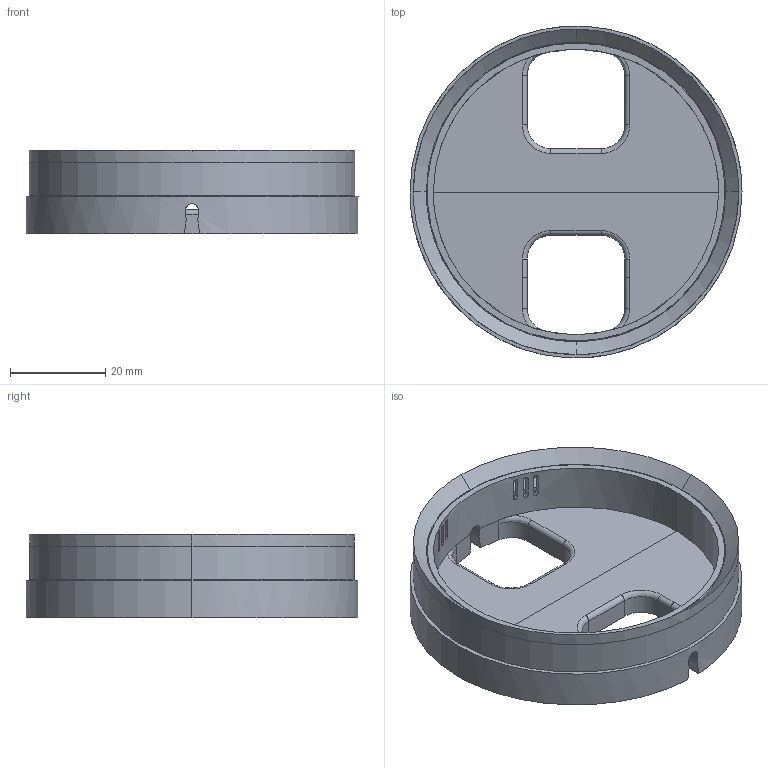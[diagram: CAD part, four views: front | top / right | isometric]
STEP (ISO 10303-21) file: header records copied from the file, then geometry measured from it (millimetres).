
FILE_DESCRIPTION(/* description */ (''),/* implementation_level */ '2;1');
FILE_NAME(/* name */ '灯具装~2',/* time_stamp */ '2023-08-29T19:27:51+08:00',/* author */ (''),/* organization */ (''),/* preprocessor_version */ 'ST-DEVELOPER v16.5',/* originating_system */ '',/* authorisation */ '');
FILE_SCHEMA (('CONFIG_CONTROL_DESIGN'));
Length unit declared in the file: millimetre
Products named in the file (1): Document
Bounding box: 69.8 x 69.8 x 17.49 mm (x, y, z)
Volume: 23224.8 mm3; surface area: 16864.6 mm2
Topology: 2 solids, 2 shells, 224 faces, 629 edges, 406 vertices
Faces by surface type: cylinder 100, plane 84, bspline 40
Entity records: 8501 total; most frequent: CARTESIAN_POINT 4450, ORIENTED_EDGE 1258, EDGE_CURVE 629, VERTEX_POINT 406, B_SPLINE_CURVE_WITH_KNOTS 374, EDGE_LOOP 251, ADVANCED_FACE 224, FACE_OUTER_BOUND 224
